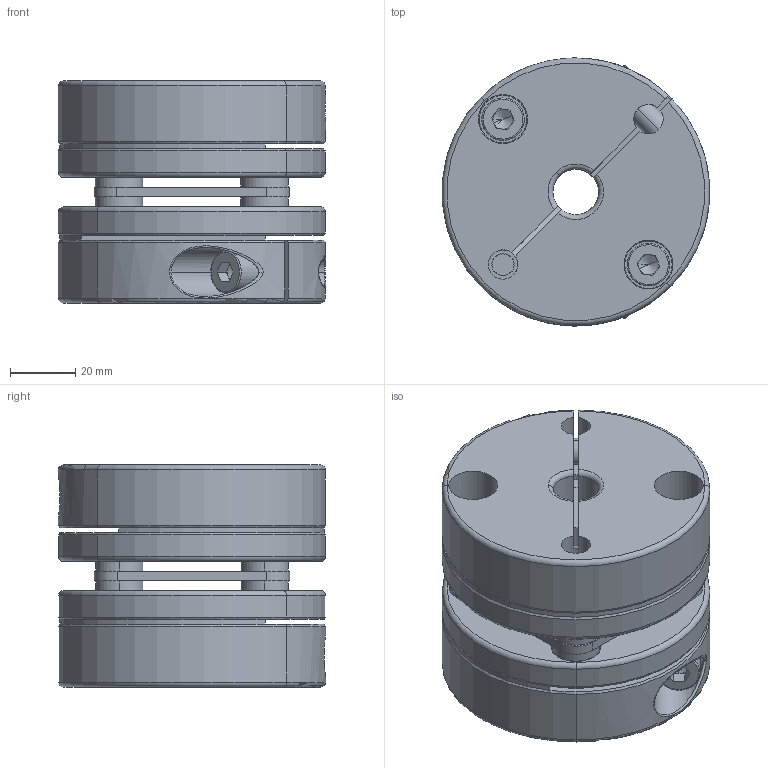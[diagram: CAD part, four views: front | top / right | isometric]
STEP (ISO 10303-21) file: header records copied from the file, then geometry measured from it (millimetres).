
FILE_DESCRIPTION (( 'STEP AP203' ), '1' );
FILE_NAME ('DXB-82X68-14-14.STEP', '2023-10-18T08:22:53', ( '' ), ( '' ), 'SwSTEP 2.0', 'SolidWorks 2020', '' );
FILE_SCHEMA (( 'CONFIG_CONTROL_DESIGN' ));
Length unit declared in the file: millimetre
Products named in the file (5): 82臚え郪; socket head cap screw_iso_ISO 4762 M8 x 25 - 25C; DXB-82X68-14-14; socket head cap screw_iso_ISO 4762 M8 x 16 - 16C; 82臚え薊粣ん傷裔
Assembly tree (9 placements, depth 2):
  DXB-82X68-14-14
    82臚え郪
    82臚え薊粣ん傷裔  x2
    socket head cap screw_iso_ISO 4762 M8 x 16 - 16C  x4
    socket head cap screw_iso_ISO 4762 M8 x 25 - 25C  x2
Bounding box: 81.84 x 82 x 68 mm (x, y, z)
Volume: 276139 mm3; surface area: 73506.5 mm2
Topology: 9 solids, 9 shells, 348 faces, 834 edges, 510 vertices
Faces by surface type: plane 132, cylinder 130, torus 44, cone 34, bspline 8
Entity records: 7987 total; most frequent: CARTESIAN_POINT 3216, DIRECTION 933, ORIENTED_EDGE 812, EDGE_CURVE 406, AXIS2_PLACEMENT_3D 382, VERTEX_POINT 256, EDGE_LOOP 208, CIRCLE 205
